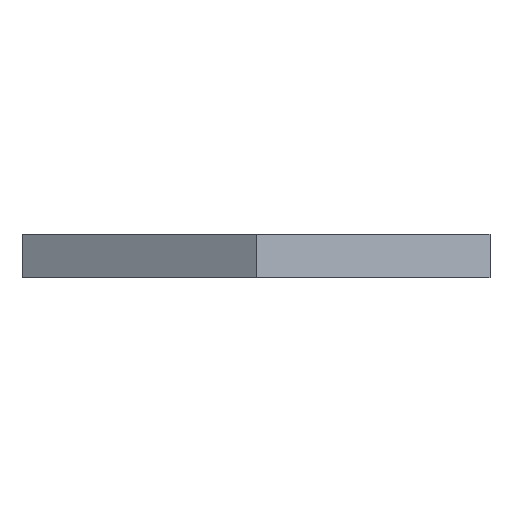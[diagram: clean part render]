
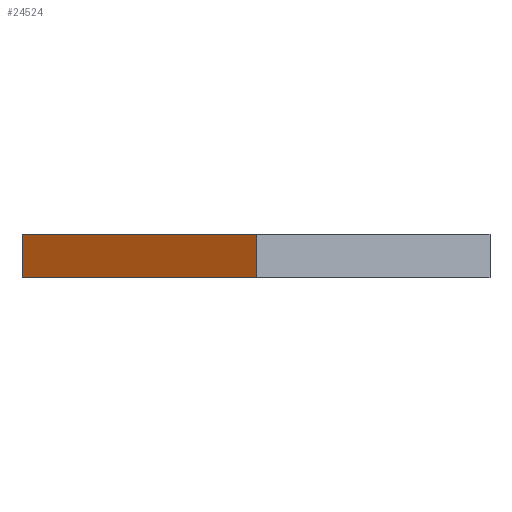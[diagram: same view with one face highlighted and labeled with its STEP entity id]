
A CAD part, left-side view. The second image highlights one B-rep face of the part: STEP entity #24524.
In plain terms, the highlighted planar face has unit normal (-0.866, 0.5, 0).
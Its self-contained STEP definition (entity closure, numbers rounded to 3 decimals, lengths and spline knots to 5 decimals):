
#154=PLANE('',#25646);
#352=LINE('',#55116,#610);
#354=LINE('',#55120,#612);
#355=LINE('',#55122,#613);
#356=LINE('',#55124,#614);
#610=VECTOR('',#26197,1.);
#612=VECTOR('',#26201,1.);
#613=VECTOR('',#26202,1.);
#614=VECTOR('',#26203,1.);
#4358=ORIENTED_EDGE('',*,*,#10904,.F.);
#4359=ORIENTED_EDGE('',*,*,#10905,.F.);
#4360=ORIENTED_EDGE('',*,*,#10906,.T.);
#4361=ORIENTED_EDGE('',*,*,#10902,.T.);
#10902=EDGE_CURVE('',#14311,#14310,#352,.T.);
#10904=EDGE_CURVE('',#14312,#14310,#354,.T.);
#10905=EDGE_CURVE('',#14313,#14312,#355,.T.);
#10906=EDGE_CURVE('',#14313,#14311,#356,.T.);
#14310=VERTEX_POINT('',#55115);
#14311=VERTEX_POINT('',#55117);
#14312=VERTEX_POINT('',#55121);
#14313=VERTEX_POINT('',#55123);
#19926=EDGE_LOOP('',(#4358,#4359,#4360,#4361));
#21581=FACE_BOUND('',#19926,.T.);
#24524=ADVANCED_FACE('',(#21581),#154,.T.);
#25646=AXIS2_PLACEMENT_3D('',#55119,#26199,#26200);
#26197=DIRECTION('',(0.,0.,-1.));
#26199=DIRECTION('',(-0.866,0.5,0.));
#26200=DIRECTION('',(-0.5,-0.866,0.));
#26201=DIRECTION('',(0.5,0.866,0.));
#26202=DIRECTION('',(0.,0.,-1.));
#26203=DIRECTION('',(0.5,0.866,0.));
#55115=CARTESIAN_POINT('',(-0.07835,0.13421,-0.0125));
#55116=CARTESIAN_POINT('',(-0.07835,0.13421,0.0125));
#55117=CARTESIAN_POINT('',(-0.07835,0.13421,0.0125));
#55119=CARTESIAN_POINT('',(-0.1171,0.0671,0.0125));
#55120=CARTESIAN_POINT('',(-0.1171,0.0671,-0.0125));
#55121=CARTESIAN_POINT('',(-0.15585,0.,-0.0125));
#55122=CARTESIAN_POINT('',(-0.15585,0.,0.0125));
#55123=CARTESIAN_POINT('',(-0.15585,0.,0.0125));
#55124=CARTESIAN_POINT('',(-0.1171,0.0671,0.0125));
